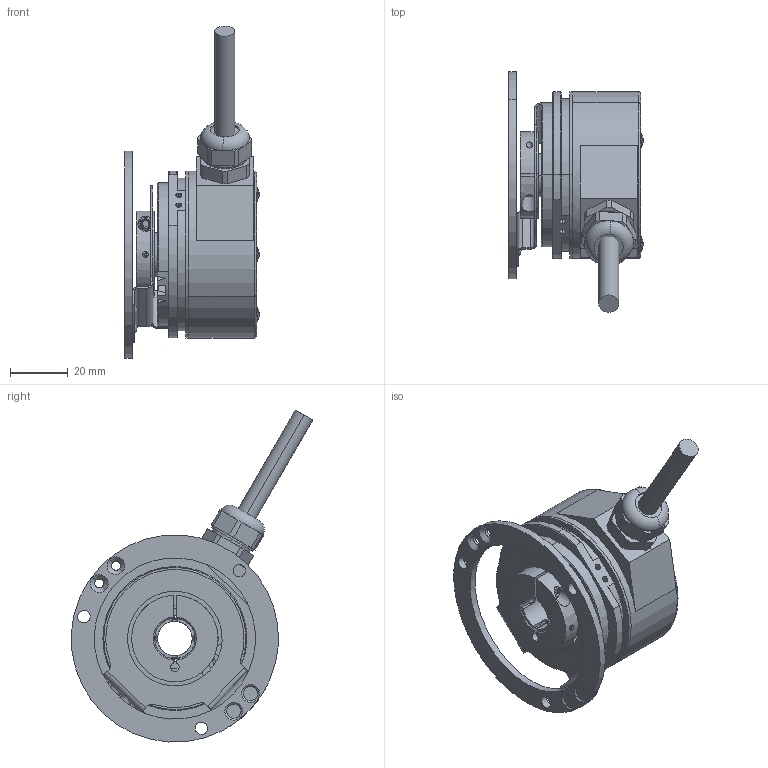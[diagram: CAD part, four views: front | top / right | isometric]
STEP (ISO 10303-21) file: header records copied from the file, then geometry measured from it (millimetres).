
FILE_DESCRIPTION (( 'STEP AP214' ), '1' );
FILE_NAME ('5825.3711.XXXX.STEP', '2008-04-17T07:35:31', ( 'admin' ), ( 'Fritz Kübler GmbH' ), 'SwSTEP 2.0', 'SolidWorks 2007', '' );
FILE_SCHEMA (( 'AUTOMOTIVE_DESIGN' ));
Length unit declared in the file: millimetre
Products named in the file (1): 5825.3711.XXXX
Bounding box: 46.58 x 83.77 x 115.29 mm (x, y, z)
Surface area: 28651.8 mm2 (no closed solid volume)
Topology: 0 solids, 23 shells, 336 faces, 997 edges, 684 vertices
Faces by surface type: plane 165, cylinder 115, cone 26, torus 20, sphere 10
Entity records: 15403 total; most frequent: CARTESIAN_POINT 2437, DIRECTION 2054, ORIENTED_EDGE 1766, EDGE_CURVE 997, AXIS2_PLACEMENT_3D 779, VERTEX_POINT 684, LINE 496, VECTOR 496
